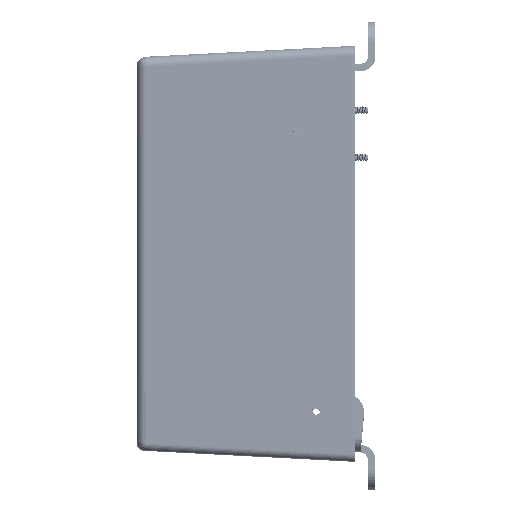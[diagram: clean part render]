
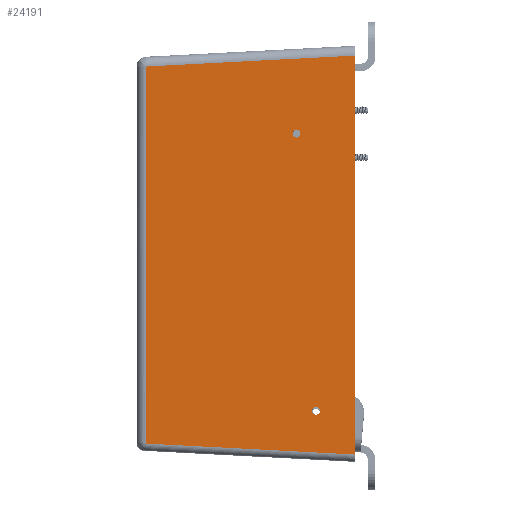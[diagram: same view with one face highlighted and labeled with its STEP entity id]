
A CAD part, left-side view. The second image highlights one B-rep face of the part: STEP entity #24191.
In plain terms, the highlighted planar face has unit normal (-0.999, 0.052, 0) as drawn and (0, 0.052, 0.999) by its records, which use the part's own axes.
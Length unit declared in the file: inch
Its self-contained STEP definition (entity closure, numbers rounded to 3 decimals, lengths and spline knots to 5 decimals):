
#7256 = LINE ( 'NONE', #129450, #271094 ) ;
#12090 = CARTESIAN_POINT ( 'NONE',  ( -5.25, 0., 9.06689 ) ) ;
#19486 = LINE ( 'NONE', #92880, #155409 ) ;
#20620 = ORIENTED_EDGE ( 'NONE', *, *, #298722, .T. ) ;
#23352 = CARTESIAN_POINT ( 'NONE',  ( 3.05754, 0.78319, 9.02585 ) ) ;
#24191 = ADVANCED_FACE ( 'NONE', ( #275234, #215338, #79527 ), #291330, .T. ) ;
#25001 = DIRECTION ( 'NONE',  ( 0., -0.052, -0.999 ) ) ;
#29247 = VECTOR ( 'NONE', #311210, 39.37008 ) ;
#37306 = LINE ( 'NONE', #158197, #29247 ) ;
#37848 = DIRECTION ( 'NONE',  ( 0., -0.999, 0.052 ) ) ;
#56806 = VERTEX_POINT ( 'NONE', #92214 ) ;
#58457 = CIRCLE ( 'NONE', #69044, 0.10156 ) ;
#69044 = AXIS2_PLACEMENT_3D ( 'NONE', #107460, #286138, #133148 ) ;
#75492 = AXIS2_PLACEMENT_3D ( 'NONE', #12090, #190831, #37848 ) ;
#79527 = FACE_OUTER_BOUND ( 'NONE', #93199, .T. ) ;
#88250 = EDGE_CURVE ( 'NONE', #121018, #294165, #19486, .T. ) ;
#89815 = CIRCLE ( 'NONE', #143801, 0.10156 ) ;
#92214 = CARTESIAN_POINT ( 'NONE',  ( -3.98908, 0.28705, 9.05185 ) ) ;
#92880 = CARTESIAN_POINT ( 'NONE',  ( 5.04295, -0.813, 9.1095 ) ) ;
#93199 = EDGE_LOOP ( 'NONE', ( #20620, #223094, #227801, #139905 ) ) ;
#93520 = ORIENTED_EDGE ( 'NONE', *, *, #196931, .T. ) ;
#100819 = VECTOR ( 'NONE', #170722, 39.37008 ) ;
#107460 = CARTESIAN_POINT ( 'NONE',  ( -3.98908, 0.18563, 9.05717 ) ) ;
#115912 = CARTESIAN_POINT ( 'NONE',  ( 4.76382, 4.51308, 8.83037 ) ) ;
#117988 = ORIENTED_EDGE ( 'NONE', *, *, #236693, .T. ) ;
#121018 = VERTEX_POINT ( 'NONE', #271158 ) ;
#123315 = CARTESIAN_POINT ( 'NONE',  ( -5.10487, -0.813, 9.1095 ) ) ;
#123561 = CARTESIAN_POINT ( 'NONE',  ( 3.05754, 0.68177, 9.03116 ) ) ;
#126458 = EDGE_CURVE ( 'NONE', #131851, #249833, #327959, .T. ) ;
#129450 = CARTESIAN_POINT ( 'NONE',  ( -19.09227, 4.51308, 8.83037 ) ) ;
#131851 = VERTEX_POINT ( 'NONE', #23352 ) ;
#133148 = DIRECTION ( 'NONE',  ( 0., -0.999, 0.052 ) ) ;
#139905 = ORIENTED_EDGE ( 'NONE', *, *, #230285, .T. ) ;
#141621 = ORIENTED_EDGE ( 'NONE', *, *, #126458, .T. ) ;
#143801 = AXIS2_PLACEMENT_3D ( 'NONE', #148850, #327516, #174547 ) ;
#147840 = EDGE_CURVE ( 'NONE', #56806, #317873, #89815, .T. ) ;
#148850 = CARTESIAN_POINT ( 'NONE',  ( -3.98908, 0.18563, 9.05717 ) ) ;
#149187 = DIRECTION ( 'NONE',  ( 0., -0.999, 0.052 ) ) ;
#155044 = DIRECTION ( 'NONE',  ( 1., 0., 0. ) ) ;
#155409 = VECTOR ( 'NONE', #271585, 39.37008 ) ;
#158197 = CARTESIAN_POINT ( 'NONE',  ( -4.82574, 4.51308, 8.83037 ) ) ;
#170722 = DIRECTION ( 'NONE',  ( 1., 0., 0. ) ) ;
#174547 = DIRECTION ( 'NONE',  ( 0., -0.999, 0.052 ) ) ;
#177871 = EDGE_LOOP ( 'NONE', ( #117988, #253035 ) ) ;
#178030 = CARTESIAN_POINT ( 'NONE',  ( 3.05754, 0.68177, 9.03116 ) ) ;
#187414 = CARTESIAN_POINT ( 'NONE',  ( 3.05754, 0.58035, 9.03648 ) ) ;
#190831 = DIRECTION ( 'NONE',  ( 0., 0.052, 0.999 ) ) ;
#196931 = EDGE_CURVE ( 'NONE', #249833, #131851, #318079, .T. ) ;
#203807 = DIRECTION ( 'NONE',  ( 0., -0.999, 0.052 ) ) ;
#209411 = AXIS2_PLACEMENT_3D ( 'NONE', #178030, #25001, #203807 ) ;
#214577 = CARTESIAN_POINT ( 'NONE',  ( -4.82574, 4.51308, 8.83037 ) ) ;
#215338 = FACE_BOUND ( 'NONE', #304683, .T. ) ;
#217784 = VERTEX_POINT ( 'NONE', #214577 ) ;
#223094 = ORIENTED_EDGE ( 'NONE', *, *, #88250, .T. ) ;
#227801 = ORIENTED_EDGE ( 'NONE', *, *, #228304, .F. ) ;
#228304 = EDGE_CURVE ( 'NONE', #217784, #294165, #7256, .T. ) ;
#228689 = LINE ( 'NONE', #247866, #100819 ) ;
#230285 = EDGE_CURVE ( 'NONE', #217784, #296093, #37306, .T. ) ;
#236693 = EDGE_CURVE ( 'NONE', #317873, #56806, #58457, .T. ) ;
#238154 = CARTESIAN_POINT ( 'NONE',  ( -3.98908, 0.08421, 9.06248 ) ) ;
#247866 = CARTESIAN_POINT ( 'NONE',  ( -5.25, -0.813, 9.1095 ) ) ;
#249833 = VERTEX_POINT ( 'NONE', #187414 ) ;
#253035 = ORIENTED_EDGE ( 'NONE', *, *, #147840, .T. ) ;
#271094 = VECTOR ( 'NONE', #155044, 39.37008 ) ;
#271158 = CARTESIAN_POINT ( 'NONE',  ( 5.04295, -0.813, 9.1095 ) ) ;
#271585 = DIRECTION ( 'NONE',  ( -0.052, 0.997, -0.052 ) ) ;
#275234 = FACE_BOUND ( 'NONE', #177871, .T. ) ;
#284426 = AXIS2_PLACEMENT_3D ( 'NONE', #123561, #302170, #149187 ) ;
#286138 = DIRECTION ( 'NONE',  ( 0., -0.052, -0.999 ) ) ;
#291330 = PLANE ( 'NONE',  #75492 ) ;
#294165 = VERTEX_POINT ( 'NONE', #115912 ) ;
#296093 = VERTEX_POINT ( 'NONE', #123315 ) ;
#298722 = EDGE_CURVE ( 'NONE', #296093, #121018, #228689, .T. ) ;
#302170 = DIRECTION ( 'NONE',  ( 0., -0.052, -0.999 ) ) ;
#304683 = EDGE_LOOP ( 'NONE', ( #93520, #141621 ) ) ;
#311210 = DIRECTION ( 'NONE',  ( -0.052, -0.997, 0.052 ) ) ;
#317873 = VERTEX_POINT ( 'NONE', #238154 ) ;
#318079 = CIRCLE ( 'NONE', #284426, 0.10156 ) ;
#327516 = DIRECTION ( 'NONE',  ( 0., -0.052, -0.999 ) ) ;
#327959 = CIRCLE ( 'NONE', #209411, 0.10156 ) ;
